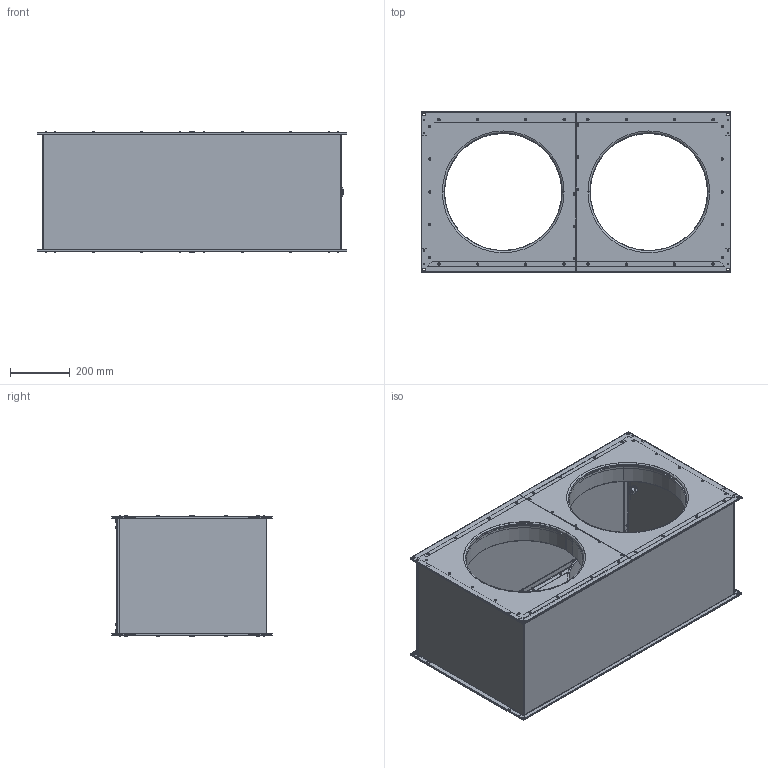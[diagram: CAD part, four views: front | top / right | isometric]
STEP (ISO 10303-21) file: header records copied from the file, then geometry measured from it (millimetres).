
FILE_DESCRIPTION (( 'STEP AP203' ), '1' );
FILE_NAME ('136751-00_EMKI10050EC22.STEP', '2016-04-20T06:52:10', ( '' ), ( '' ), 'SwSTEP 2.0', 'SolidWorks 2012', '' );
FILE_SCHEMA (( 'CONFIG_CONTROL_DESIGN' ));
Length unit declared in the file: millimetre
Products named in the file (1): 136751-00_EMKI10050EC22
Bounding box: 1038.5 x 538 x 403.2 mm (x, y, z)
Surface area: 4960210.5 mm2 (no closed solid volume)
Topology: 0 solids, 160 shells, 772 faces, 2854 edges, 2118 vertices
Faces by surface type: cylinder 372, torus 200, plane 175, cone 13, bspline 12
Entity records: 32652 total; most frequent: CARTESIAN_POINT 7714, DIRECTION 5863, ORIENTED_EDGE 3961, EDGE_CURVE 2846, AXIS2_PLACEMENT_3D 2471, VERTEX_POINT 2118, CIRCLE 1710, EDGE_LOOP 1064
